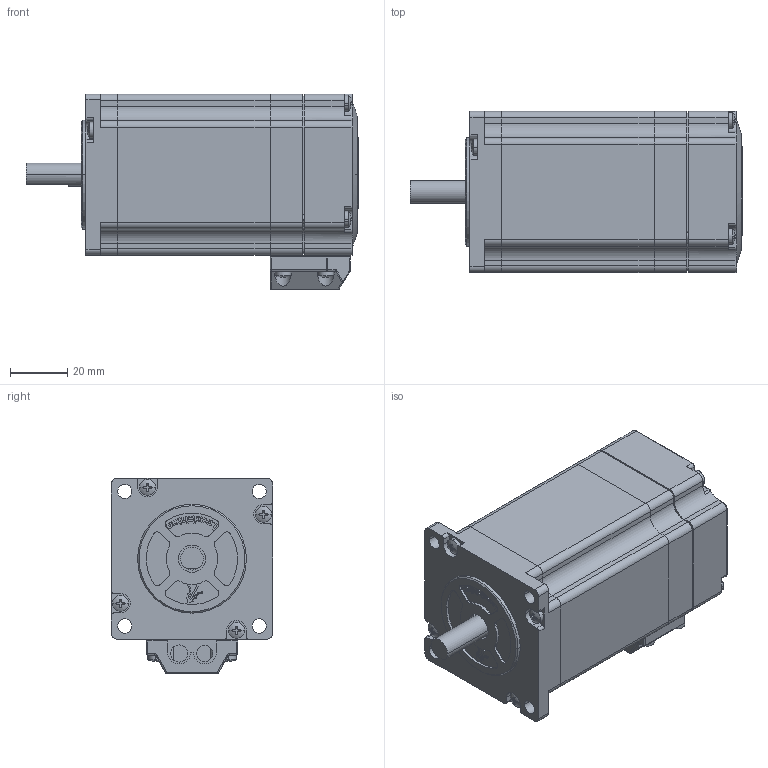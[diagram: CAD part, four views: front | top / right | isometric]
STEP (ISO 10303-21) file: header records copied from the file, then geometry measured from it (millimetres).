
FILE_DESCRIPTION (( 'STEP AP203' ), '1' );
FILE_NAME ('57CME23.STEP', '2017-10-25T03:15:32', ( '' ), ( '' ), 'SwSTEP 2.0', 'SolidWorks 2016', '' );
FILE_SCHEMA (( 'CONFIG_CONTROL_DESIGN' ));
Products named in the file (1): 57CME23
Bounding box: 116.3 x 56.4 x 68.5 mm (x, y, z)
Volume: 132081.2 mm3; surface area: 96193.2 mm2
Topology: 32 solids, 32 shells, 3189 faces, 8383 edges, 5415 vertices
Faces by surface type: plane 1456, cylinder 994, bspline 406, cone 257, sphere 46, torus 30
Entity records: 109374 total; most frequent: CARTESIAN_POINT 31538, ORIENTED_EDGE 16750, DIRECTION 15372, EDGE_CURVE 8375, VERTEX_POINT 5415, AXIS2_PLACEMENT_3D 5221, LINE 4930, VECTOR 4930
